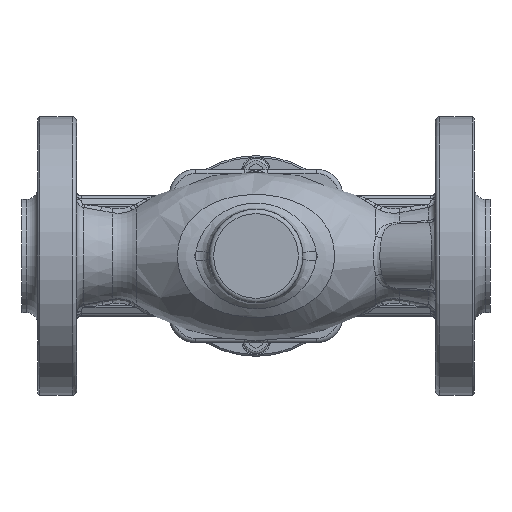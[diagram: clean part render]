
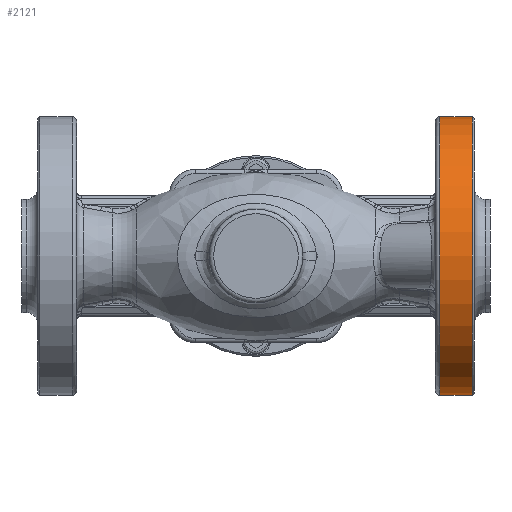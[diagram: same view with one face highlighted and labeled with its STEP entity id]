
A CAD part, front view. The second image highlights one B-rep face of the part: STEP entity #2121.
In plain terms, the highlighted cylindrical face has radius 62.5 mm (diameter 125 mm), a full revolution.
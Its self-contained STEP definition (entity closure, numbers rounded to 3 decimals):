
#1283=CYLINDRICAL_SURFACE('',#9091,62.5);
#2121=ADVANCED_FACE('',(#2818,#2819),#1283,.T.);
#2818=FACE_BOUND('',#3206,.T.);
#2819=FACE_BOUND('',#3207,.T.);
#3206=EDGE_LOOP('',(#4242));
#3207=EDGE_LOOP('',(#4243));
#4242=ORIENTED_EDGE('',*,*,#7415,.T.);
#4243=ORIENTED_EDGE('',*,*,#7416,.T.);
#6588=VERTEX_POINT('',#14135);
#6589=VERTEX_POINT('',#14137);
#7415=EDGE_CURVE('',#6588,#6588,#8476,.T.);
#7416=EDGE_CURVE('',#6589,#6589,#8477,.T.);
#8476=CIRCLE('',#9089,62.5);
#8477=CIRCLE('',#9090,62.5);
#9089=AXIS2_PLACEMENT_3D('',#14134,#10350,#10351);
#9090=AXIS2_PLACEMENT_3D('',#14136,#10352,#10353);
#9091=AXIS2_PLACEMENT_3D('',#14138,#10354,#10355);
#10350=DIRECTION('',(-1.,0.,0.));
#10351=DIRECTION('',(0.,0.,-1.));
#10352=DIRECTION('',(1.,0.,0.));
#10353=DIRECTION('',(0.,0.,1.));
#10354=DIRECTION('',(1.,0.,0.));
#10355=DIRECTION('',(0.,0.,-1.));
#14134=CARTESIAN_POINT('',(97.,0.,0.));
#14135=CARTESIAN_POINT('',(97.,0.,-62.5));
#14136=CARTESIAN_POINT('',(82.5,0.,0.));
#14137=CARTESIAN_POINT('',(82.5,0.,62.5));
#14138=CARTESIAN_POINT('',(0.,0.,0.));
